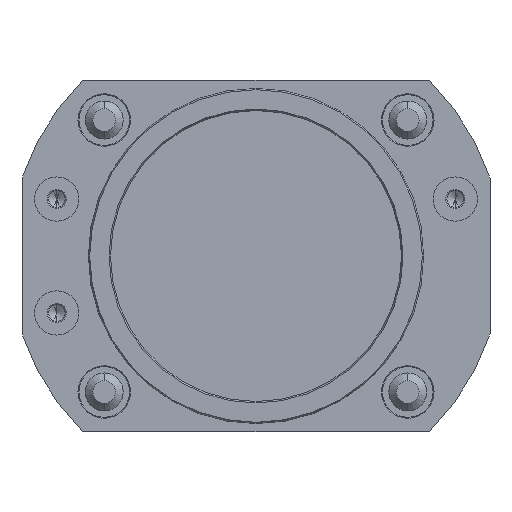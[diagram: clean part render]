
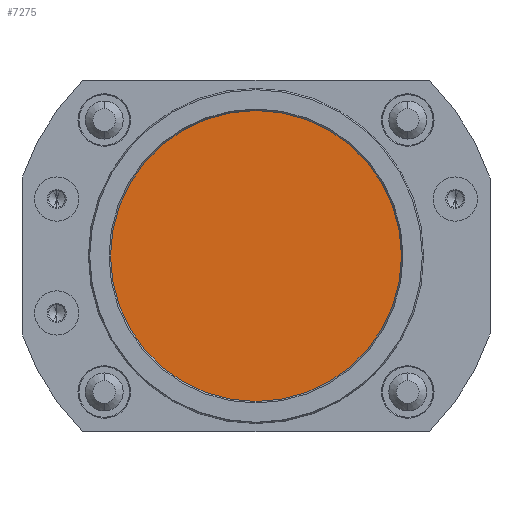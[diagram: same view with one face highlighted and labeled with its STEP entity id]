
A CAD part, front view. The second image highlights one B-rep face of the part: STEP entity #7275.
In plain terms, the highlighted planar face has unit normal (0, -1, 0).
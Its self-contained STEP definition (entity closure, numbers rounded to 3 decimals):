
#730 = CIRCLE ( 'NONE', #772, 23. ) ;
#761 = CARTESIAN_POINT ( 'NONE',  ( 0., 3., 0. ) ) ;
#769 = DIRECTION ( 'NONE',  ( 0., 0., 1. ) ) ;
#770 = DIRECTION ( 'NONE',  ( 0., 1., 0. ) ) ;
#771 = CARTESIAN_POINT ( 'NONE',  ( 0., 3., 0. ) ) ;
#772 = AXIS2_PLACEMENT_3D ( 'NONE', #771, #770, #769 ) ;
#789 = AXIS2_PLACEMENT_3D ( 'NONE', #761, #812, #810 ) ;
#810 = DIRECTION ( 'NONE',  ( 0., 0., -1. ) ) ;
#812 = DIRECTION ( 'NONE',  ( 0., -1., 0. ) ) ;
#815 = PLANE ( 'NONE',  #789 ) ;
#820 = FACE_OUTER_BOUND ( 'NONE', #7255, .T. ) ;
#3690 = DIRECTION ( 'NONE',  ( 0., 0., 1. ) ) ;
#3691 = DIRECTION ( 'NONE',  ( 0., 1., 0. ) ) ;
#3692 = CARTESIAN_POINT ( 'NONE',  ( 0., 3., 0. ) ) ;
#3693 = AXIS2_PLACEMENT_3D ( 'NONE', #3692, #3691, #3690 ) ;
#3696 = CIRCLE ( 'NONE', #3693, 23. ) ;
#3713 = CARTESIAN_POINT ( 'NONE',  ( 0., 3., 23. ) ) ;
#3763 = CARTESIAN_POINT ( 'NONE',  ( 0., 3., -23. ) ) ;
#7234 = EDGE_CURVE ( 'NONE', #9394, #9414, #730, .T. ) ;
#7245 = ORIENTED_EDGE ( 'NONE', *, *, #7234, .F. ) ;
#7250 = ORIENTED_EDGE ( 'NONE', *, *, #9370, .F. ) ;
#7255 = EDGE_LOOP ( 'NONE', ( #7245, #7250 ) ) ;
#7275 = ADVANCED_FACE ( 'NONE', ( #820 ), #815, .T. ) ;
#9370 = EDGE_CURVE ( 'NONE', #9414, #9394, #3696, .T. ) ;
#9394 = VERTEX_POINT ( 'NONE', #3713 ) ;
#9414 = VERTEX_POINT ( 'NONE', #3763 ) ;
